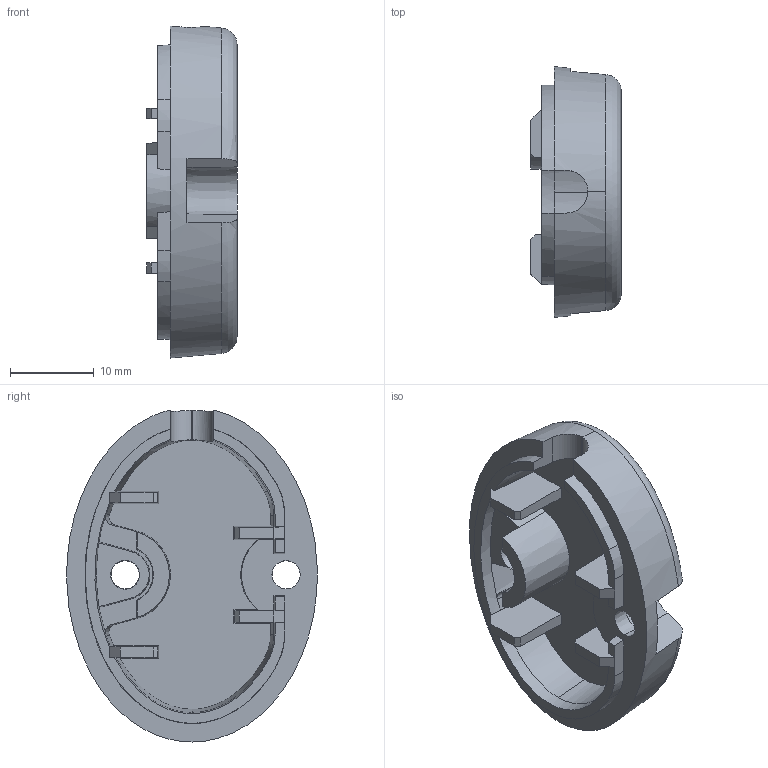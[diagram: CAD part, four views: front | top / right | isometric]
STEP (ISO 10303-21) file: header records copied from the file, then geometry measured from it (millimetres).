
FILE_DESCRIPTION (( 'STEP AP214' ), '1' );
FILE_NAME ('P-00025 - Pressure Sensor Cover - v2.2.3_Default Configuration.STEP', '2026-06-12T21:53:51', ( '' ), ( '' ), 'SwSTEP 2.0', 'SolidWorks 2023', '' );
FILE_SCHEMA (( 'AUTOMOTIVE_DESIGN' ));
Length unit declared in the file: inch
Products named in the file (1): P-00025 - Pressure Sensor Cover - v2.2.3_Default Configuration
Bounding box: 10.8 x 29.99 x 39.7 mm (x, y, z)
Volume: 4885.4 mm3; surface area: 3728.2 mm2
Topology: 1 solids, 1 shells, 97 faces, 275 edges, 180 vertices
Faces by surface type: plane 60, bspline 26, cone 9, cylinder 2
Entity records: 6758 total; most frequent: CARTESIAN_POINT 4503, ORIENTED_EDGE 550, DIRECTION 326, EDGE_CURVE 275, VERTEX_POINT 180, LINE 146, VECTOR 146, B_SPLINE_CURVE_WITH_KNOTS 109
